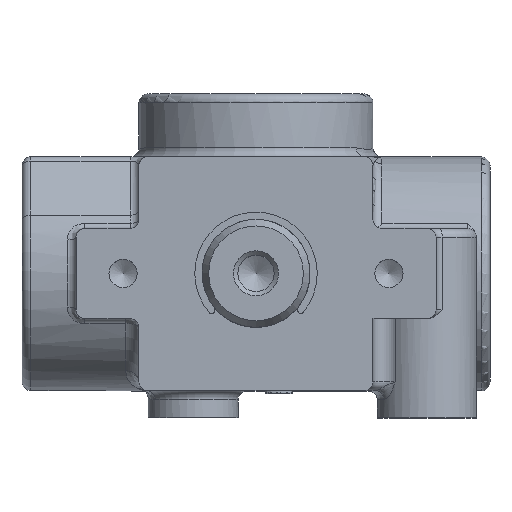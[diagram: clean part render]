
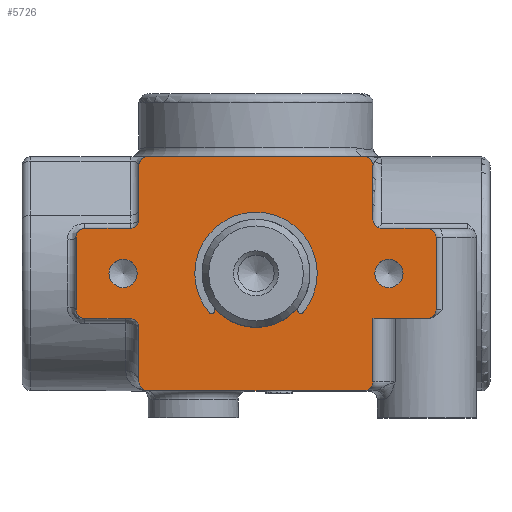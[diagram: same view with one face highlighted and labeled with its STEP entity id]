
A CAD part, top view. The second image highlights one B-rep face of the part: STEP entity #5726.
In plain terms, the highlighted planar face has unit normal (0, 0, 1).
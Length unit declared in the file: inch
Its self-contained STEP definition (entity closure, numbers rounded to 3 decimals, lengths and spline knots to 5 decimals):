
#3973=CARTESIAN_POINT('',(0.375,0.,1.781));
#3974=VERTEX_POINT('',#3973);
#3975=CARTESIAN_POINT('',(0.,0.,1.781));
#3976=DIRECTION('',(0.0,0.0,-1.0));
#3977=DIRECTION('',(-1.0,0.0,0.0));
#3978=AXIS2_PLACEMENT_3D('',#3975,#3976,#3977);
#3979=CIRCLE('',#3978,0.375);
#3980=EDGE_CURVE('',#3974,#3974,#3979,.T.);
#5104=CARTESIAN_POINT('',(1.021,0.0,1.781));
#5105=VERTEX_POINT('',#5104);
#5106=CARTESIAN_POINT('',(0.923,0.0,1.781));
#5107=DIRECTION('',(0.0,0.0,-1.0));
#5108=DIRECTION('',(1.0,0.0,0.0));
#5109=AXIS2_PLACEMENT_3D('',#5106,#5107,#5108);
#5110=CIRCLE('',#5109,0.098);
#5111=EDGE_CURVE('',#5105,#5105,#5110,.T.);
#5141=CARTESIAN_POINT('',(-0.825,0.0,1.781));
#5142=VERTEX_POINT('',#5141);
#5143=CARTESIAN_POINT('',(-0.923,0.0,1.781));
#5144=DIRECTION('',(0.0,0.0,-1.0));
#5145=DIRECTION('',(1.0,0.0,0.0));
#5146=AXIS2_PLACEMENT_3D('',#5143,#5144,#5145);
#5147=CIRCLE('',#5146,0.098);
#5148=EDGE_CURVE('',#5142,#5142,#5147,.T.);
#5515=CARTESIAN_POINT('',(-1.99854,0.0,1.781));
#5516=DIRECTION('',(0.0,0.0,-1.0));
#5517=DIRECTION('',(-1.0,0.0,0.0));
#5518=AXIS2_PLACEMENT_3D('',#5515,#5516,#5517);
#5519=PLANE('',#5518);
#5520=CARTESIAN_POINT('',(-0.8745,0.3125,1.781));
#5521=VERTEX_POINT('',#5520);
#5522=CARTESIAN_POINT('',(-0.8125,0.3745,1.781));
#5523=VERTEX_POINT('',#5522);
#5524=CARTESIAN_POINT('',(-0.8745,0.3745,1.781));
#5525=DIRECTION('',(0.0,0.0,1.0));
#5526=DIRECTION('',(0.707,-0.707,0.0));
#5527=AXIS2_PLACEMENT_3D('',#5524,#5525,#5526);
#5528=CIRCLE('',#5527,0.062);
#5529=EDGE_CURVE('',#5521,#5523,#5528,.T.);
#5530=ORIENTED_EDGE('',*,*,#5529,.F.);
#5531=CARTESIAN_POINT('',(-1.188,0.3125,1.781));
#5532=VERTEX_POINT('',#5531);
#5533=CARTESIAN_POINT('',(-1.188,0.3125,1.781));
#5534=DIRECTION('',(1.0,0.0,0.0));
#5535=VECTOR('',#5534,0.3135);
#5536=LINE('',#5533,#5535);
#5537=EDGE_CURVE('',#5532,#5521,#5536,.T.);
#5538=ORIENTED_EDGE('',*,*,#5537,.F.);
#5539=CARTESIAN_POINT('',(-1.25,0.2505,1.781));
#5540=VERTEX_POINT('',#5539);
#5541=CARTESIAN_POINT('',(-1.188,0.2505,1.781));
#5542=DIRECTION('',(0.0,0.0,-1.0));
#5543=DIRECTION('',(-0.707,0.707,0.0));
#5544=AXIS2_PLACEMENT_3D('',#5541,#5542,#5543);
#5545=CIRCLE('',#5544,0.062);
#5546=EDGE_CURVE('',#5540,#5532,#5545,.T.);
#5547=ORIENTED_EDGE('',*,*,#5546,.F.);
#5548=CARTESIAN_POINT('',(-1.25,-0.2505,1.781));
#5549=VERTEX_POINT('',#5548);
#5550=CARTESIAN_POINT('',(-1.25,-0.2505,1.781));
#5551=DIRECTION('',(0.0,1.0,0.0));
#5552=VECTOR('',#5551,0.501);
#5553=LINE('',#5550,#5552);
#5554=EDGE_CURVE('',#5549,#5540,#5553,.T.);
#5555=ORIENTED_EDGE('',*,*,#5554,.F.);
#5556=CARTESIAN_POINT('',(-1.188,-0.3125,1.781));
#5557=VERTEX_POINT('',#5556);
#5558=CARTESIAN_POINT('',(-1.188,-0.2505,1.781));
#5559=DIRECTION('',(0.0,0.0,-1.0));
#5560=DIRECTION('',(-0.707,-0.707,0.0));
#5561=AXIS2_PLACEMENT_3D('',#5558,#5559,#5560);
#5562=CIRCLE('',#5561,0.062);
#5563=EDGE_CURVE('',#5557,#5549,#5562,.T.);
#5564=ORIENTED_EDGE('',*,*,#5563,.F.);
#5565=CARTESIAN_POINT('',(-0.8745,-0.3125,1.781));
#5566=VERTEX_POINT('',#5565);
#5567=CARTESIAN_POINT('',(-0.8745,-0.3125,1.781));
#5568=DIRECTION('',(-1.0,0.0,0.0));
#5569=VECTOR('',#5568,0.3135);
#5570=LINE('',#5567,#5569);
#5571=EDGE_CURVE('',#5566,#5557,#5570,.T.);
#5572=ORIENTED_EDGE('',*,*,#5571,.F.);
#5573=CARTESIAN_POINT('',(-0.8125,-0.3745,1.781));
#5574=VERTEX_POINT('',#5573);
#5575=CARTESIAN_POINT('',(-0.8745,-0.3745,1.781));
#5576=DIRECTION('',(0.0,0.0,1.0));
#5577=DIRECTION('',(0.707,0.707,0.0));
#5578=AXIS2_PLACEMENT_3D('',#5575,#5576,#5577);
#5579=CIRCLE('',#5578,0.062);
#5580=EDGE_CURVE('',#5574,#5566,#5579,.T.);
#5581=ORIENTED_EDGE('',*,*,#5580,.F.);
#5582=CARTESIAN_POINT('',(-0.8125,-0.751,1.781));
#5583=VERTEX_POINT('',#5582);
#5584=CARTESIAN_POINT('',(-0.8125,-0.751,1.781));
#5585=DIRECTION('',(0.0,1.0,0.0));
#5586=VECTOR('',#5585,0.3765);
#5587=LINE('',#5584,#5586);
#5588=EDGE_CURVE('',#5583,#5574,#5587,.T.);
#5589=ORIENTED_EDGE('',*,*,#5588,.F.);
#5590=CARTESIAN_POINT('',(-0.7505,-0.813,1.781));
#5591=VERTEX_POINT('',#5590);
#5592=CARTESIAN_POINT('',(-0.7505,-0.751,1.781));
#5593=DIRECTION('',(0.0,0.0,-1.0));
#5594=DIRECTION('',(-0.707,-0.707,0.0));
#5595=AXIS2_PLACEMENT_3D('',#5592,#5593,#5594);
#5596=CIRCLE('',#5595,0.062);
#5597=EDGE_CURVE('',#5591,#5583,#5596,.T.);
#5598=ORIENTED_EDGE('',*,*,#5597,.F.);
#5599=CARTESIAN_POINT('',(0.7505,-0.813,1.781));
#5600=VERTEX_POINT('',#5599);
#5601=CARTESIAN_POINT('',(0.7505,-0.813,1.781));
#5602=DIRECTION('',(-1.0,0.0,0.0));
#5603=VECTOR('',#5602,1.501);
#5604=LINE('',#5601,#5603);
#5605=EDGE_CURVE('',#5600,#5591,#5604,.T.);
#5606=ORIENTED_EDGE('',*,*,#5605,.F.);
#5607=CARTESIAN_POINT('',(0.8125,-0.751,1.781));
#5608=VERTEX_POINT('',#5607);
#5609=CARTESIAN_POINT('',(0.7505,-0.751,1.781));
#5610=DIRECTION('',(0.0,0.0,-1.0));
#5611=DIRECTION('',(0.707,-0.707,0.0));
#5612=AXIS2_PLACEMENT_3D('',#5609,#5610,#5611);
#5613=CIRCLE('',#5612,0.062);
#5614=EDGE_CURVE('',#5608,#5600,#5613,.T.);
#5615=ORIENTED_EDGE('',*,*,#5614,.F.);
#5616=CARTESIAN_POINT('',(0.8125,-0.3125,1.781));
#5617=VERTEX_POINT('',#5616);
#5618=CARTESIAN_POINT('',(0.8125,-0.3125,1.781));
#5619=DIRECTION('',(0.0,-1.0,0.0));
#5620=VECTOR('',#5619,0.4385);
#5621=LINE('',#5618,#5620);
#5622=EDGE_CURVE('',#5617,#5608,#5621,.T.);
#5623=ORIENTED_EDGE('',*,*,#5622,.F.);
#5624=CARTESIAN_POINT('',(1.188,-0.3125,1.781));
#5625=VERTEX_POINT('',#5624);
#5626=CARTESIAN_POINT('',(1.188,-0.3125,1.781));
#5627=DIRECTION('',(-1.0,0.0,0.0));
#5628=VECTOR('',#5627,0.3755);
#5629=LINE('',#5626,#5628);
#5630=EDGE_CURVE('',#5625,#5617,#5629,.T.);
#5631=ORIENTED_EDGE('',*,*,#5630,.F.);
#5632=CARTESIAN_POINT('',(1.25,-0.2505,1.781));
#5633=VERTEX_POINT('',#5632);
#5634=CARTESIAN_POINT('',(1.188,-0.2505,1.781));
#5635=DIRECTION('',(0.0,0.0,-1.0));
#5636=DIRECTION('',(0.707,-0.707,0.0));
#5637=AXIS2_PLACEMENT_3D('',#5634,#5635,#5636);
#5638=CIRCLE('',#5637,0.062);
#5639=EDGE_CURVE('',#5633,#5625,#5638,.T.);
#5640=ORIENTED_EDGE('',*,*,#5639,.F.);
#5641=CARTESIAN_POINT('',(1.25,0.2505,1.781));
#5642=VERTEX_POINT('',#5641);
#5643=CARTESIAN_POINT('',(1.25,0.2505,1.781));
#5644=DIRECTION('',(0.0,-1.0,0.0));
#5645=VECTOR('',#5644,0.501);
#5646=LINE('',#5643,#5645);
#5647=EDGE_CURVE('',#5642,#5633,#5646,.T.);
#5648=ORIENTED_EDGE('',*,*,#5647,.F.);
#5649=CARTESIAN_POINT('',(1.188,0.3125,1.781));
#5650=VERTEX_POINT('',#5649);
#5651=CARTESIAN_POINT('',(1.188,0.2505,1.781));
#5652=DIRECTION('',(0.0,0.0,-1.0));
#5653=DIRECTION('',(0.707,0.707,0.0));
#5654=AXIS2_PLACEMENT_3D('',#5651,#5652,#5653);
#5655=CIRCLE('',#5654,0.062);
#5656=EDGE_CURVE('',#5650,#5642,#5655,.T.);
#5657=ORIENTED_EDGE('',*,*,#5656,.F.);
#5658=CARTESIAN_POINT('',(0.8745,0.3125,1.781));
#5659=VERTEX_POINT('',#5658);
#5660=CARTESIAN_POINT('',(0.8745,0.3125,1.781));
#5661=DIRECTION('',(1.0,0.0,0.0));
#5662=VECTOR('',#5661,0.3135);
#5663=LINE('',#5660,#5662);
#5664=EDGE_CURVE('',#5659,#5650,#5663,.T.);
#5665=ORIENTED_EDGE('',*,*,#5664,.F.);
#5666=CARTESIAN_POINT('',(0.8125,0.3745,1.781));
#5667=VERTEX_POINT('',#5666);
#5668=CARTESIAN_POINT('',(0.8745,0.3745,1.781));
#5669=DIRECTION('',(0.0,0.0,1.0));
#5670=DIRECTION('',(-0.707,-0.707,0.0));
#5671=AXIS2_PLACEMENT_3D('',#5668,#5669,#5670);
#5672=CIRCLE('',#5671,0.062);
#5673=EDGE_CURVE('',#5667,#5659,#5672,.T.);
#5674=ORIENTED_EDGE('',*,*,#5673,.F.);
#5675=CARTESIAN_POINT('',(0.8125,0.75,1.781));
#5676=VERTEX_POINT('',#5675);
#5677=CARTESIAN_POINT('',(0.8125,0.75,1.781));
#5678=DIRECTION('',(0.0,-1.0,0.0));
#5679=VECTOR('',#5678,0.3755);
#5680=LINE('',#5677,#5679);
#5681=EDGE_CURVE('',#5676,#5667,#5680,.T.);
#5682=ORIENTED_EDGE('',*,*,#5681,.F.);
#5683=CARTESIAN_POINT('',(0.7505,0.812,1.781));
#5684=VERTEX_POINT('',#5683);
#5685=CARTESIAN_POINT('',(0.7505,0.75,1.781));
#5686=DIRECTION('',(0.0,0.0,-1.0));
#5687=DIRECTION('',(0.707,0.707,0.0));
#5688=AXIS2_PLACEMENT_3D('',#5685,#5686,#5687);
#5689=CIRCLE('',#5688,0.062);
#5690=EDGE_CURVE('',#5684,#5676,#5689,.T.);
#5691=ORIENTED_EDGE('',*,*,#5690,.F.);
#5692=CARTESIAN_POINT('',(-0.7505,0.812,1.781));
#5693=VERTEX_POINT('',#5692);
#5694=CARTESIAN_POINT('',(-0.7505,0.812,1.781));
#5695=DIRECTION('',(1.0,0.0,0.0));
#5696=VECTOR('',#5695,1.501);
#5697=LINE('',#5694,#5696);
#5698=EDGE_CURVE('',#5693,#5684,#5697,.T.);
#5699=ORIENTED_EDGE('',*,*,#5698,.F.);
#5700=CARTESIAN_POINT('',(-0.8125,0.75,1.781));
#5701=VERTEX_POINT('',#5700);
#5702=CARTESIAN_POINT('',(-0.7505,0.75,1.781));
#5703=DIRECTION('',(0.,0.,-1.0));
#5704=DIRECTION('',(-0.707,0.707,0.));
#5705=AXIS2_PLACEMENT_3D('',#5702,#5703,#5704);
#5706=CIRCLE('',#5705,0.062);
#5707=EDGE_CURVE('',#5701,#5693,#5706,.T.);
#5708=ORIENTED_EDGE('',*,*,#5707,.F.);
#5709=CARTESIAN_POINT('',(-0.8125,0.3745,1.781));
#5710=DIRECTION('',(0.0,1.0,0.0));
#5711=VECTOR('',#5710,0.3755);
#5712=LINE('',#5709,#5711);
#5713=EDGE_CURVE('',#5523,#5701,#5712,.T.);
#5714=ORIENTED_EDGE('',*,*,#5713,.F.);
#5715=EDGE_LOOP('',(#5530,#5538,#5547,#5555,#5564,#5572,#5581,#5589,#5598,#5606,#5615,#5623,#5631,#5640,#5648,#5657,#5665,#5674,#5682,#5691,#5699,#5708,#5714));
#5716=FACE_OUTER_BOUND('',#5715,.T.);
#5717=ORIENTED_EDGE('',*,*,#3980,.T.);
#5718=EDGE_LOOP('',(#5717));
#5719=FACE_BOUND('',#5718,.T.);
#5720=ORIENTED_EDGE('',*,*,#5111,.T.);
#5721=EDGE_LOOP('',(#5720));
#5722=FACE_BOUND('',#5721,.T.);
#5723=ORIENTED_EDGE('',*,*,#5148,.T.);
#5724=EDGE_LOOP('',(#5723));
#5725=FACE_BOUND('',#5724,.T.);
#5726=ADVANCED_FACE('',(#5716,#5719,#5722,#5725),#5519,.F.);
